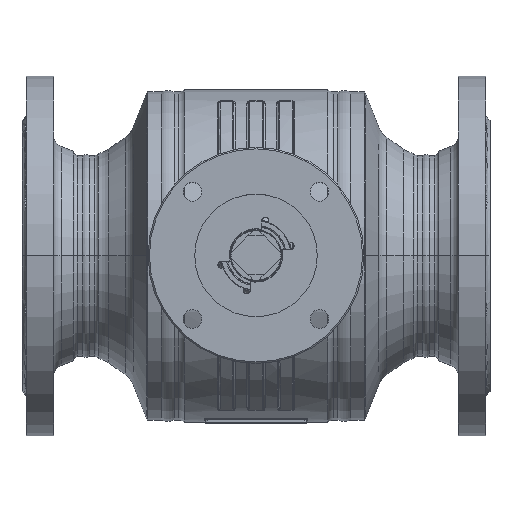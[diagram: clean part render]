
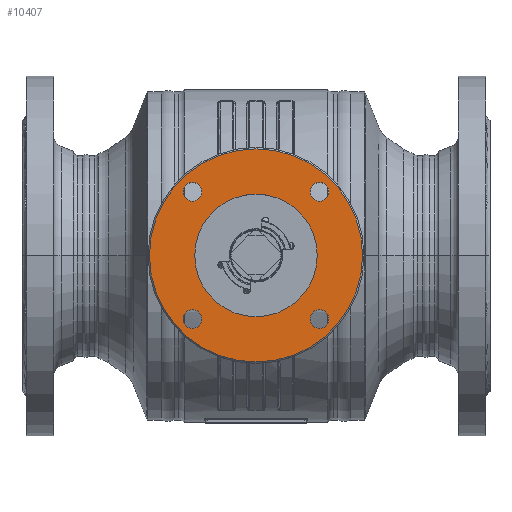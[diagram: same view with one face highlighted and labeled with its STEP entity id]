
A CAD part, top view. The second image highlights one B-rep face of the part: STEP entity #10407.
In plain terms, the highlighted planar face has unit normal (0, 0, 1).
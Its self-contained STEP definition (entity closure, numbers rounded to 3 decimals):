
#363=CARTESIAN_POINT('',(0.,0.,228.));
#364=DIRECTION('',(0.,0.,-1.));
#365=DIRECTION('',(0.,-1.,0.));
#366=AXIS2_PLACEMENT_3D('',#363,#364,#365);
#368=CARTESIAN_POINT('',(0.,0.,228.));
#369=DIRECTION('',(0.,0.,-1.));
#370=DIRECTION('',(0.,1.,0.));
#371=AXIS2_PLACEMENT_3D('',#368,#369,#370);
#373=CARTESIAN_POINT('',(0.,0.,228.));
#374=DIRECTION('',(0.,0.,-1.));
#375=DIRECTION('',(0.,1.,0.));
#376=AXIS2_PLACEMENT_3D('',#373,#374,#375);
#378=CARTESIAN_POINT('',(0.,0.,228.));
#379=DIRECTION('',(0.,0.,1.));
#380=DIRECTION('',(0.,1.,0.));
#381=AXIS2_PLACEMENT_3D('',#378,#379,#380);
#383=CARTESIAN_POINT('',(44.194,-44.194,228.));
#384=DIRECTION('',(0.,0.,-1.));
#385=DIRECTION('',(0.,1.,0.));
#386=AXIS2_PLACEMENT_3D('',#383,#384,#385);
#388=CARTESIAN_POINT('',(44.194,-44.194,228.));
#389=DIRECTION('',(0.,0.,-1.));
#390=DIRECTION('',(0.,-1.,0.));
#391=AXIS2_PLACEMENT_3D('',#388,#389,#390);
#393=CARTESIAN_POINT('',(-44.194,-44.194,228.));
#394=DIRECTION('',(0.,0.,-1.));
#395=DIRECTION('',(0.,1.,0.));
#396=AXIS2_PLACEMENT_3D('',#393,#394,#395);
#398=CARTESIAN_POINT('',(-44.194,-44.194,228.));
#399=DIRECTION('',(0.,0.,-1.));
#400=DIRECTION('',(0.,-1.,0.));
#401=AXIS2_PLACEMENT_3D('',#398,#399,#400);
#403=CARTESIAN_POINT('',(-44.194,44.194,228.));
#404=DIRECTION('',(0.,0.,-1.));
#405=DIRECTION('',(0.,1.,0.));
#406=AXIS2_PLACEMENT_3D('',#403,#404,#405);
#408=CARTESIAN_POINT('',(-44.194,44.194,228.));
#409=DIRECTION('',(0.,0.,-1.));
#410=DIRECTION('',(0.,-1.,0.));
#411=AXIS2_PLACEMENT_3D('',#408,#409,#410);
#413=CARTESIAN_POINT('',(44.194,44.194,228.));
#414=DIRECTION('',(0.,0.,-1.));
#415=DIRECTION('',(0.,1.,0.));
#416=AXIS2_PLACEMENT_3D('',#413,#414,#415);
#418=CARTESIAN_POINT('',(44.194,44.194,228.));
#419=DIRECTION('',(0.,0.,-1.));
#420=DIRECTION('',(0.,-1.,0.));
#421=AXIS2_PLACEMENT_3D('',#418,#419,#420);
#9762=CARTESIAN_POINT('',(0.,42.55,228.));
#9764=VERTEX_POINT('',#9762);
#9766=CARTESIAN_POINT('',(0.,-42.55,228.));
#9768=VERTEX_POINT('',#9766);
#9829=CARTESIAN_POINT('',(44.194,-37.694,228.));
#9830=CARTESIAN_POINT('',(44.194,-50.694,228.));
#9831=VERTEX_POINT('',#9829);
#9832=VERTEX_POINT('',#9830);
#9837=CARTESIAN_POINT('',(-44.194,-37.694,228.));
#9838=CARTESIAN_POINT('',(-44.194,-50.694,228.));
#9839=VERTEX_POINT('',#9837);
#9840=VERTEX_POINT('',#9838);
#9845=CARTESIAN_POINT('',(-44.194,50.694,228.));
#9846=CARTESIAN_POINT('',(-44.194,37.694,228.));
#9847=VERTEX_POINT('',#9845);
#9848=VERTEX_POINT('',#9846);
#9853=CARTESIAN_POINT('',(44.194,50.694,228.));
#9854=CARTESIAN_POINT('',(44.194,37.694,228.));
#9855=VERTEX_POINT('',#9853);
#9856=VERTEX_POINT('',#9854);
#9869=CARTESIAN_POINT('',(0.,-74.,228.));
#9870=CARTESIAN_POINT('',(0.,74.,228.));
#9871=VERTEX_POINT('',#9869);
#9872=VERTEX_POINT('',#9870);
#10368=CARTESIAN_POINT('',(0.,0.,228.));
#10369=DIRECTION('',(0.,0.,-1.));
#10370=DIRECTION('',(0.,1.,0.));
#10371=AXIS2_PLACEMENT_3D('',#10368,#10369,#10370);
#10372=PLANE('',#10371);
#10373=ORIENTED_EDGE('',*,*,#10335,.T.);
#10374=ORIENTED_EDGE('',*,*,#10350,.T.);
#10375=EDGE_LOOP('',(#10373,#10374));
#10376=FACE_OUTER_BOUND('',#10375,.F.);
#10378=ORIENTED_EDGE('',*,*,#10377,.F.);
#10380=ORIENTED_EDGE('',*,*,#10379,.T.);
#10381=EDGE_LOOP('',(#10378,#10380));
#10382=FACE_BOUND('',#10381,.F.);
#10384=ORIENTED_EDGE('',*,*,#10383,.F.);
#10386=ORIENTED_EDGE('',*,*,#10385,.F.);
#10387=EDGE_LOOP('',(#10384,#10386));
#10388=FACE_BOUND('',#10387,.F.);
#10390=ORIENTED_EDGE('',*,*,#10389,.F.);
#10392=ORIENTED_EDGE('',*,*,#10391,.F.);
#10393=EDGE_LOOP('',(#10390,#10392));
#10394=FACE_BOUND('',#10393,.F.);
#10396=ORIENTED_EDGE('',*,*,#10395,.F.);
#10398=ORIENTED_EDGE('',*,*,#10397,.F.);
#10399=EDGE_LOOP('',(#10396,#10398));
#10400=FACE_BOUND('',#10399,.F.);
#10402=ORIENTED_EDGE('',*,*,#10401,.F.);
#10404=ORIENTED_EDGE('',*,*,#10403,.F.);
#10405=EDGE_LOOP('',(#10402,#10404));
#10406=FACE_BOUND('',#10405,.F.);
#10407=ADVANCED_FACE('',(#10376,#10382,#10388,#10394,#10400,#10406),#10372,.F.);
#367=CIRCLE('',#366,74.);
#372=CIRCLE('',#371,74.);
#377=CIRCLE('',#376,42.55);
#382=CIRCLE('',#381,42.55);
#387=CIRCLE('',#386,6.5);
#392=CIRCLE('',#391,6.5);
#397=CIRCLE('',#396,6.5);
#402=CIRCLE('',#401,6.5);
#407=CIRCLE('',#406,6.5);
#412=CIRCLE('',#411,6.5);
#417=CIRCLE('',#416,6.5);
#422=CIRCLE('',#421,6.5);
#10335=EDGE_CURVE('',#9871,#9872,#367,.T.);
#10350=EDGE_CURVE('',#9872,#9871,#372,.T.);
#10377=EDGE_CURVE('',#9764,#9768,#377,.T.);
#10379=EDGE_CURVE('',#9764,#9768,#382,.T.);
#10383=EDGE_CURVE('',#9831,#9832,#387,.T.);
#10385=EDGE_CURVE('',#9832,#9831,#392,.T.);
#10389=EDGE_CURVE('',#9839,#9840,#397,.T.);
#10391=EDGE_CURVE('',#9840,#9839,#402,.T.);
#10395=EDGE_CURVE('',#9847,#9848,#407,.T.);
#10397=EDGE_CURVE('',#9848,#9847,#412,.T.);
#10401=EDGE_CURVE('',#9855,#9856,#417,.T.);
#10403=EDGE_CURVE('',#9856,#9855,#422,.T.);
